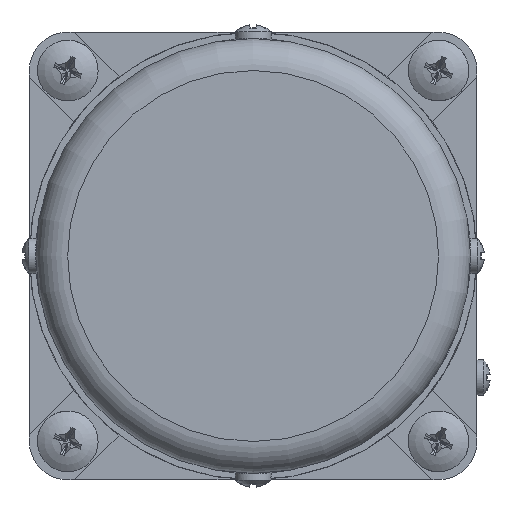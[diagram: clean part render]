
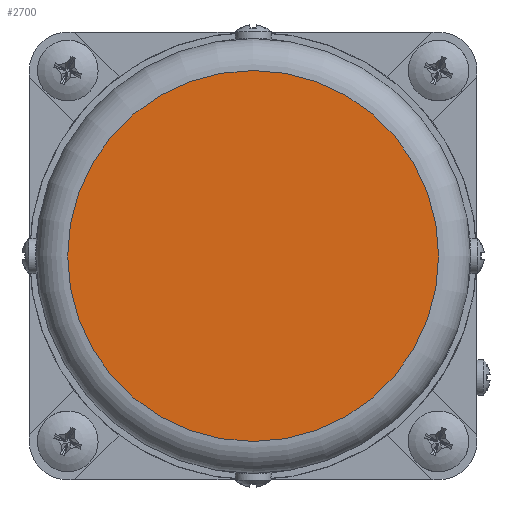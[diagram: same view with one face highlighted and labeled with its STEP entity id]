
A CAD part, left-side view. The second image highlights one B-rep face of the part: STEP entity #2700.
In plain terms, the highlighted planar face has unit normal (-1, 0, 0).
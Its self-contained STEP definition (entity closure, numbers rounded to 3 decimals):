
#1973=FACE_OUTER_BOUND('',#3905,.T.);
#2191=PLANE('',#8625);
#2700=ADVANCED_FACE('',(#1973),#2191,.T.);
#3905=EDGE_LOOP('',(#5517));
#5517=ORIENTED_EDGE('',*,*,#7326,.T.);
#6434=VERTEX_POINT('',#13929);
#7326=EDGE_CURVE('',#6434,#6434,#7797,.T.);
#7797=CIRCLE('',#8624,29.);
#8624=AXIS2_PLACEMENT_3D('',#13928,#10048,#10049);
#8625=AXIS2_PLACEMENT_3D('',#13930,#10050,#10051);
#10048=DIRECTION('',(-1.,0.,0.));
#10049=DIRECTION('',(0.,0.,-1.));
#10050=DIRECTION('',(-1.,0.,0.));
#10051=DIRECTION('',(0.,0.,-1.));
#13928=CARTESIAN_POINT('',(-146.,0.,0.));
#13929=CARTESIAN_POINT('',(-146.,0.,-29.));
#13930=CARTESIAN_POINT('',(-146.,0.,0.));
